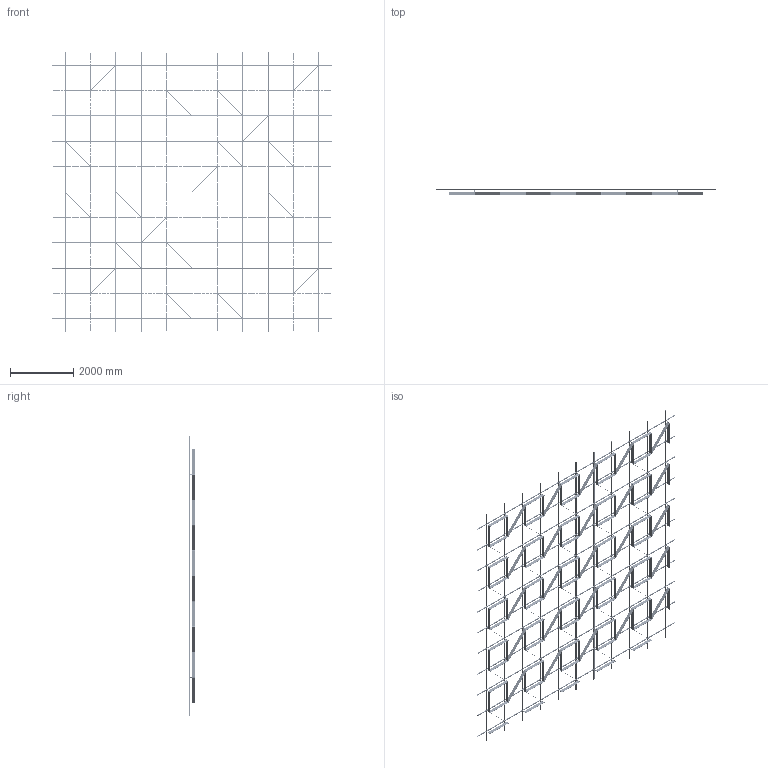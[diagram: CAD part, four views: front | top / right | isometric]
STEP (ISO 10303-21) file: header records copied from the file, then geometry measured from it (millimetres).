
FILE_DESCRIPTION (( 'STEP AP203' ), '1' );
FILE_NAME ('18 ìèäè ñ ïñ.step', '2025-11-26T11:42:49', ( '' ), ( '' ), 'SwSTEP 2.0', 'SolidWorks 2020', '' );
FILE_SCHEMA (( 'CONFIG_CONTROL_DESIGN' ));
Length unit declared in the file: millimetre
Products named in the file (5): 18 ìèäè ñ ïñ; SS.SEMA.2400 - Ñèìà-ïðîôèëü — îáðåçàí 1600; Ñèñòåìà â çîíå 8000õ8000; SS.SEMA.2400 - Ñèìà-ïðîôèëü; Var18
Assembly tree (90 placements, depth 3):
  18 ìèäè ñ ïñ
    Ñèñòåìà â çîíå 8000õ8000
      SS.SEMA.2400 - Ñèìà-ïðîôèëü  x66
      SS.SEMA.2400 - Ñèìà-ïðîôèëü — îáðåçàí 1600  x22
    Var18
Bounding box: 8800 x 205 x 8800 mm (x, y, z)
Volume: 133670731.7 mm3; surface area: 59421987 mm2
Topology: 728 solids, 728 shells, 19380 faces, 52364 edges, 34440 vertices
Faces by surface type: cylinder 12818, plane 6562
Entity records: 80991 total; most frequent: CARTESIAN_POINT 18394, DIRECTION 11954, ORIENTED_EDGE 11576, EDGE_CURVE 5788, AXIS2_PLACEMENT_3D 5728, VERTEX_POINT 3848, EDGE_LOOP 3386, FACE_OUTER_BOUND 3224
